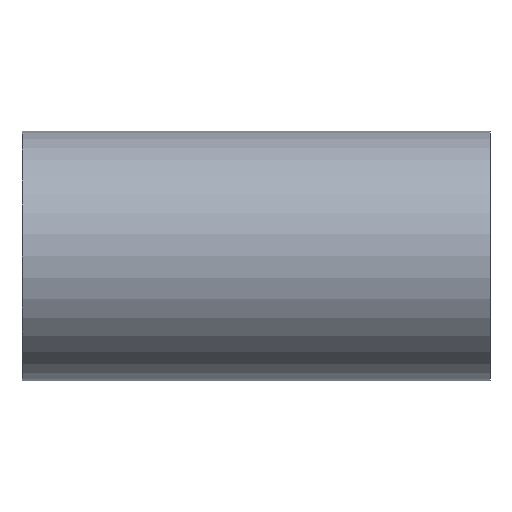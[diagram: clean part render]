
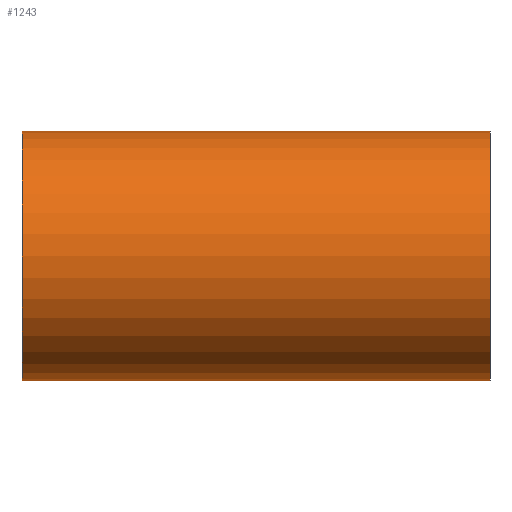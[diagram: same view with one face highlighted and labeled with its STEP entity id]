
A CAD part, front view. The second image highlights one B-rep face of the part: STEP entity #1243.
In plain terms, the highlighted cylindrical face has radius 76.2 mm (diameter 152.4 mm), a partial arc.
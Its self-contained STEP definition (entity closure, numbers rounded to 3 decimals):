
#35 = ORIENTED_EDGE ( 'NONE', *, *, #65, .T. ) ;
#57 = FACE_OUTER_BOUND ( 'NONE', #542, .T. ) ;
#65 = EDGE_CURVE ( 'NONE', #424, #1682, #1271, .T. ) ;
#75 = VECTOR ( 'NONE', #1251, 1000. ) ;
#252 = EDGE_CURVE ( 'NONE', #1095, #1006, #1762, .T. ) ;
#289 = DIRECTION ( 'NONE',  ( 0., 0., -1. ) ) ;
#306 = DIRECTION ( 'NONE',  ( -1., 0., 0. ) ) ;
#312 = CARTESIAN_POINT ( 'NONE',  ( 142.9, 0., 0. ) ) ;
#344 = DIRECTION ( 'NONE',  ( 1., 0., 0. ) ) ;
#424 = VERTEX_POINT ( 'NONE', #1594 ) ;
#542 = EDGE_LOOP ( 'NONE', ( #1362, #671, #35, #1151 ) ) ;
#567 = CIRCLE ( 'NONE', #825, 76.2 ) ;
#579 = AXIS2_PLACEMENT_3D ( 'NONE', #1242, #1272, #1740 ) ;
#647 = AXIS2_PLACEMENT_3D ( 'NONE', #1292, #344, #785 ) ;
#671 = ORIENTED_EDGE ( 'NONE', *, *, #1184, .T. ) ;
#678 = CARTESIAN_POINT ( 'NONE',  ( -142.9, 0., 76.2 ) ) ;
#785 = DIRECTION ( 'NONE',  ( 0., 0., -1. ) ) ;
#825 = AXIS2_PLACEMENT_3D ( 'NONE', #312, #306, #289 ) ;
#932 = CIRCLE ( 'NONE', #579, 76.2 ) ;
#1006 = VERTEX_POINT ( 'NONE', #1531 ) ;
#1062 = EDGE_CURVE ( 'NONE', #1682, #1006, #567, .T. ) ;
#1095 = VERTEX_POINT ( 'NONE', #678 ) ;
#1151 = ORIENTED_EDGE ( 'NONE', *, *, #1062, .T. ) ;
#1153 = DIRECTION ( 'NONE',  ( 1., 0., 0. ) ) ;
#1184 = EDGE_CURVE ( 'NONE', #1095, #424, #932, .T. ) ;
#1198 = CYLINDRICAL_SURFACE ( 'NONE', #647, 76.2 ) ;
#1242 = CARTESIAN_POINT ( 'NONE',  ( -142.9, 0., 0. ) ) ;
#1243 = ADVANCED_FACE ( 'NONE', ( #57 ), #1198, .T. ) ;
#1251 = DIRECTION ( 'NONE',  ( 1., 0., 0. ) ) ;
#1271 = LINE ( 'NONE', #1287, #75 ) ;
#1272 = DIRECTION ( 'NONE',  ( 1., 0., 0. ) ) ;
#1287 = CARTESIAN_POINT ( 'NONE',  ( -142.9, 0., -76.2 ) ) ;
#1292 = CARTESIAN_POINT ( 'NONE',  ( -142.9, 0., 0. ) ) ;
#1362 = ORIENTED_EDGE ( 'NONE', *, *, #252, .F. ) ;
#1384 = CARTESIAN_POINT ( 'NONE',  ( 142.9, 0., -76.2 ) ) ;
#1531 = CARTESIAN_POINT ( 'NONE',  ( 142.9, 0., 76.2 ) ) ;
#1594 = CARTESIAN_POINT ( 'NONE',  ( -142.9, 0., -76.2 ) ) ;
#1623 = CARTESIAN_POINT ( 'NONE',  ( -142.9, 0., 76.2 ) ) ;
#1682 = VERTEX_POINT ( 'NONE', #1384 ) ;
#1740 = DIRECTION ( 'NONE',  ( 0., 0., -1. ) ) ;
#1762 = LINE ( 'NONE', #1623, #1784 ) ;
#1784 = VECTOR ( 'NONE', #1153, 1000. ) ;
